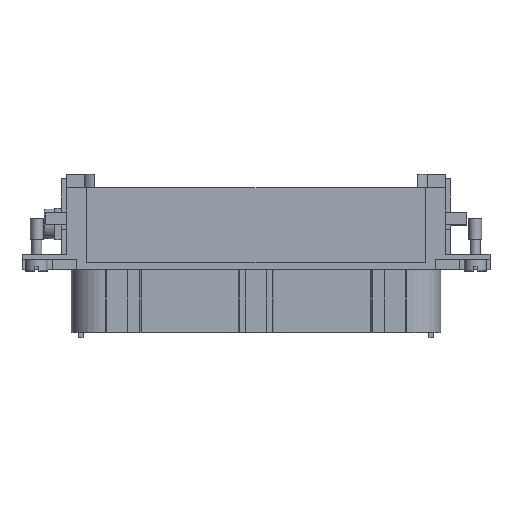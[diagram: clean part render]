
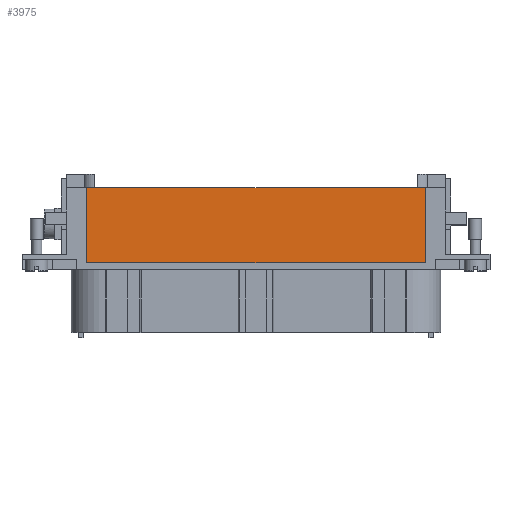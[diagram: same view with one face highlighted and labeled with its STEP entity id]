
A CAD part, top view. The second image highlights one B-rep face of the part: STEP entity #3975.
In plain terms, the highlighted planar face has unit normal (0, 0, 1).
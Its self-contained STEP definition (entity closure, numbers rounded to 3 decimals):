
#679 = ORIENTED_EDGE ( 'NONE', *, *, #4234, .T. ) ;
#1931 = VECTOR ( 'NONE', #28303, 1000. ) ;
#2349 = VECTOR ( 'NONE', #24143, 1000. ) ;
#2849 = ORIENTED_EDGE ( 'NONE', *, *, #26778, .F. ) ;
#3147 = AXIS2_PLACEMENT_3D ( 'NONE', #4585, #6662, #9089 ) ;
#3975 = ADVANCED_FACE ( 'NONE', ( #14414 ), #11506, .F. ) ;
#4234 = EDGE_CURVE ( 'NONE', #26693, #8833, #9845, .T. ) ;
#4504 = DIRECTION ( 'NONE',  ( -1., 0., 0. ) ) ;
#4585 = CARTESIAN_POINT ( 'NONE',  ( 40.15, 1.6, 13.5 ) ) ;
#6044 = CARTESIAN_POINT ( 'NONE',  ( -40.15, 1.6, 13.5 ) ) ;
#6083 = CARTESIAN_POINT ( 'NONE',  ( 40.15, 19.4, 13.5 ) ) ;
#6150 = CARTESIAN_POINT ( 'NONE',  ( 40.15, 1.6, 13.5 ) ) ;
#6510 = EDGE_CURVE ( 'NONE', #26693, #20447, #10877, .T. ) ;
#6662 = DIRECTION ( 'NONE',  ( 0., 0., -1. ) ) ;
#8833 = VERTEX_POINT ( 'NONE', #6083 ) ;
#9089 = DIRECTION ( 'NONE',  ( 0., 1., 0. ) ) ;
#9199 = EDGE_CURVE ( 'NONE', #8833, #12282, #28350, .T. ) ;
#9282 = ORIENTED_EDGE ( 'NONE', *, *, #9199, .T. ) ;
#9845 = LINE ( 'NONE', #16376, #1931 ) ;
#10292 = LINE ( 'NONE', #12304, #2349 ) ;
#10877 = LINE ( 'NONE', #31116, #31193 ) ;
#11506 = PLANE ( 'NONE',  #3147 ) ;
#12085 = ORIENTED_EDGE ( 'NONE', *, *, #6510, .F. ) ;
#12282 = VERTEX_POINT ( 'NONE', #18137 ) ;
#12304 = CARTESIAN_POINT ( 'NONE',  ( -40.15, 1.6, 13.5 ) ) ;
#14414 = FACE_OUTER_BOUND ( 'NONE', #19692, .T. ) ;
#16376 = CARTESIAN_POINT ( 'NONE',  ( 40.15, 1.6, 13.5 ) ) ;
#18137 = CARTESIAN_POINT ( 'NONE',  ( -40.15, 19.4, 13.5 ) ) ;
#19692 = EDGE_LOOP ( 'NONE', ( #9282, #2849, #12085, #679 ) ) ;
#20447 = VERTEX_POINT ( 'NONE', #6044 ) ;
#23866 = DIRECTION ( 'NONE',  ( -1., 0., 0. ) ) ;
#24143 = DIRECTION ( 'NONE',  ( 0., 1., 0. ) ) ;
#26693 = VERTEX_POINT ( 'NONE', #6150 ) ;
#26778 = EDGE_CURVE ( 'NONE', #20447, #12282, #10292, .T. ) ;
#27152 = CARTESIAN_POINT ( 'NONE',  ( 40.15, 19.4, 13.5 ) ) ;
#28303 = DIRECTION ( 'NONE',  ( 0., 1., 0. ) ) ;
#28350 = LINE ( 'NONE', #27152, #29096 ) ;
#29096 = VECTOR ( 'NONE', #23866, 1000. ) ;
#31116 = CARTESIAN_POINT ( 'NONE',  ( 40.15, 1.6, 13.5 ) ) ;
#31193 = VECTOR ( 'NONE', #4504, 1000. ) ;
